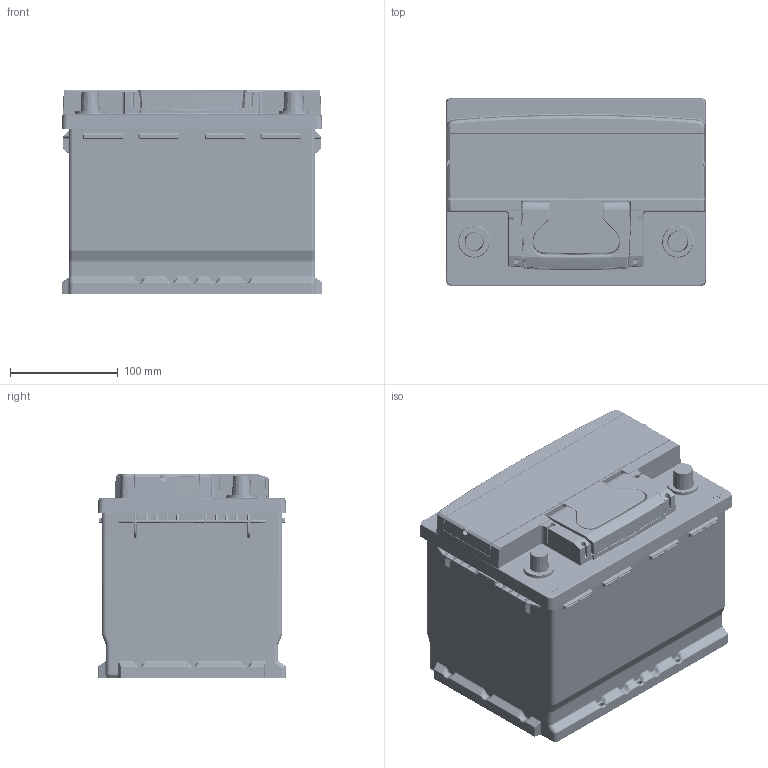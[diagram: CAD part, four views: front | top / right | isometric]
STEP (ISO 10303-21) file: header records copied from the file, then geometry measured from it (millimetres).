
FILE_DESCRIPTION(/* description */ (''),/* implementation_level */ '2;1');
FILE_NAME(/* name */ 'H5',/* time_stamp */ '2016-04-27T16:56:41+08:00',/* author */ (''),/* organization */ (''),/* preprocessor_version */ 'ST-DEVELOPER v9',/* originating_system */ 'EDS PLM SOLUTIONS - UNIGRAPHICS NX 2.0',/* authorisation */ '');
FILE_SCHEMA (('AUTOMOTIVE_DESIGN { 1 0 10303 214 0 1 1 1 }'));
Products named in the file (1): bxus9A009t1m
Bounding box: 241.2 x 174.4 x 188.8 mm (x, y, z)
Volume: 1047762.7 mm3; surface area: 962547.9 mm2
Topology: 7 solids, 7 shells, 11106 faces, 27371 edges, 15647 vertices
Faces by surface type: cylinder 3662, bspline 3222, plane 2623, sphere 911, cone 363, torus 293, extrusion 18, revolution 14
Full cylindrical faces by diameter (mm): 0.91 x56, 4.2 x6, 5.8 x2, 18.796 x6, 19.05 x6, 19.152 x6
Entity records: 537014 total; most frequent: CARTESIAN_POINT 320528, ORIENTED_EDGE 51792, DIRECTION 31976, EDGE_CURVE 25896, VERTEX_POINT 15309, B_SPLINE_CURVE_WITH_KNOTS 13555, AXIS2_PLACEMENT_3D 11766, EDGE_LOOP 11587
